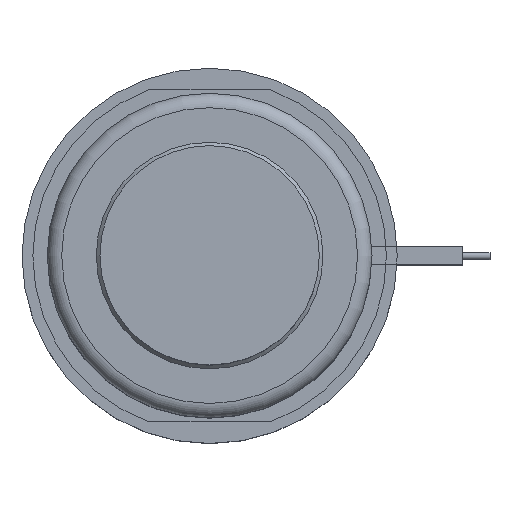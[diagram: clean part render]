
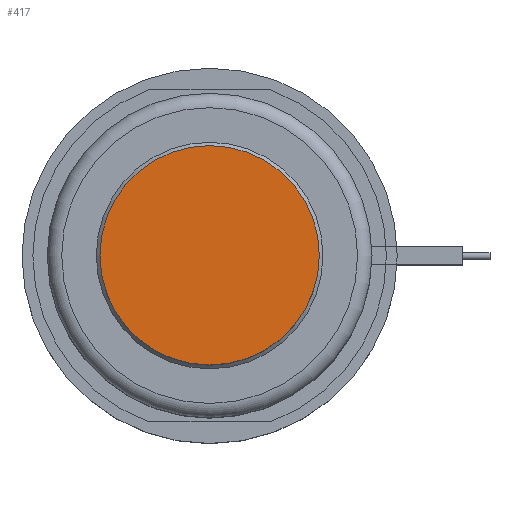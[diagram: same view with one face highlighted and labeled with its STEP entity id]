
A CAD part, top view. The second image highlights one B-rep face of the part: STEP entity #417.
In plain terms, the highlighted planar face has unit normal (0, 0, 1).
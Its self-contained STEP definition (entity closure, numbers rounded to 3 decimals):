
#272=PLANE('',#1397);
#332=FACE_OUTER_BOUND('',#653,.T.);
#417=ADVANCED_FACE('',(#332),#272,.F.);
#653=EDGE_LOOP('',(#901));
#901=ORIENTED_EDGE('',*,*,#1166,.F.);
#1036=VERTEX_POINT('',#2179);
#1166=EDGE_CURVE('',#1036,#1036,#1251,.T.);
#1251=CIRCLE('',#1396,15.2);
#1396=AXIS2_PLACEMENT_3D('',#2178,#1733,#1734);
#1397=AXIS2_PLACEMENT_3D('',#2180,#1735,#1736);
#1733=DIRECTION('',(0.,0.,-1.));
#1734=DIRECTION('',(-1.,0.,0.));
#1735=DIRECTION('',(0.,0.,-1.));
#1736=DIRECTION('',(-1.,0.,0.));
#2178=CARTESIAN_POINT('',(0.,0.,18.));
#2179=CARTESIAN_POINT('',(-15.2,0.,18.));
#2180=CARTESIAN_POINT('',(0.,0.,18.));
